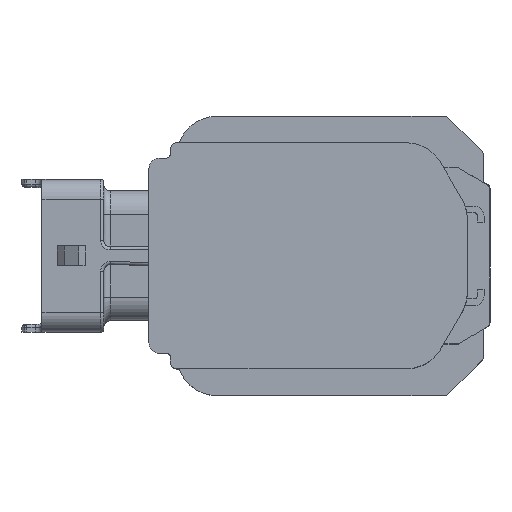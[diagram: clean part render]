
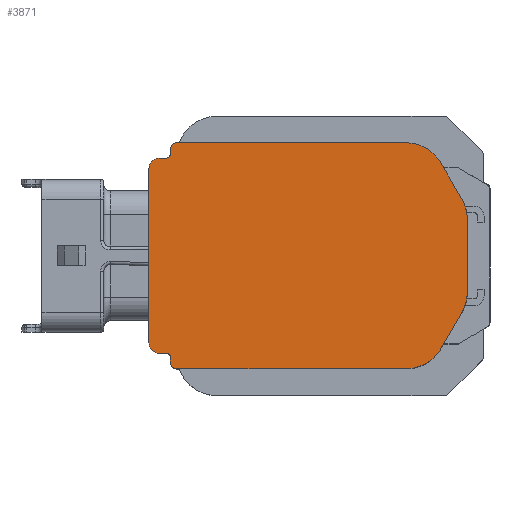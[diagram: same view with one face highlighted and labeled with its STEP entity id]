
A CAD part, top view. The second image highlights one B-rep face of the part: STEP entity #3871.
In plain terms, the highlighted planar face has unit normal (0, 0, 1).
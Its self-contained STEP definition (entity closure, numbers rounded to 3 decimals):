
#439=ELLIPSE('',#14783,1.601,1.6);
#440=ELLIPSE('',#14797,1.601,1.6);
#441=ELLIPSE('',#14800,0.5,0.5);
#442=ELLIPSE('',#14814,0.5,0.5);
#735=PLANE('',#14896);
#2085=LINE('',#27254,#3054);
#2086=LINE('',#27255,#3055);
#2087=LINE('',#27256,#3056);
#2088=LINE('',#27257,#3057);
#2089=LINE('',#27258,#3058);
#2090=LINE('',#27262,#3059);
#2091=LINE('',#27266,#3060);
#2092=LINE('',#27270,#3061);
#2093=LINE('',#27274,#3062);
#2094=LINE('',#27275,#3063);
#3054=VECTOR('',#18447,1.);
#3055=VECTOR('',#18448,1.);
#3056=VECTOR('',#18449,1.);
#3057=VECTOR('',#18450,1.);
#3058=VECTOR('',#18451,1.);
#3059=VECTOR('',#18454,1.);
#3060=VECTOR('',#18457,1.);
#3061=VECTOR('',#18460,1.);
#3062=VECTOR('',#18463,1.);
#3063=VECTOR('',#18464,1.);
#3871=ADVANCED_FACE('',(#4692),#735,.T.);
#4692=FACE_OUTER_BOUND('',#5568,.T.);
#5568=EDGE_LOOP('',(#9501,#9502,#9503,#9504,#9505,#9506,#9507,#9508,#9509,
#9510,#9511,#9512,#9513,#9514,#9515,#9516,#9517,#9518,#9519,#9520));
#9501=ORIENTED_EDGE('',*,*,#12957,.F.);
#9502=ORIENTED_EDGE('',*,*,#12801,.T.);
#9503=ORIENTED_EDGE('',*,*,#12958,.T.);
#9504=ORIENTED_EDGE('',*,*,#12812,.T.);
#9505=ORIENTED_EDGE('',*,*,#12959,.T.);
#9506=ORIENTED_EDGE('',*,*,#12828,.T.);
#9507=ORIENTED_EDGE('',*,*,#12960,.T.);
#9508=ORIENTED_EDGE('',*,*,#12833,.T.);
#9509=ORIENTED_EDGE('',*,*,#12961,.T.);
#9510=ORIENTED_EDGE('',*,*,#12962,.T.);
#9511=ORIENTED_EDGE('',*,*,#12963,.T.);
#9512=ORIENTED_EDGE('',*,*,#12964,.T.);
#9513=ORIENTED_EDGE('',*,*,#12965,.T.);
#9514=ORIENTED_EDGE('',*,*,#12966,.T.);
#9515=ORIENTED_EDGE('',*,*,#12967,.T.);
#9516=ORIENTED_EDGE('',*,*,#12968,.T.);
#9517=ORIENTED_EDGE('',*,*,#12969,.T.);
#9518=ORIENTED_EDGE('',*,*,#12836,.T.);
#9519=ORIENTED_EDGE('',*,*,#12970,.T.);
#9520=ORIENTED_EDGE('',*,*,#12817,.T.);
#10936=VERTEX_POINT('',#26942);
#10937=VERTEX_POINT('',#26944);
#10944=VERTEX_POINT('',#26966);
#10945=VERTEX_POINT('',#26967);
#10948=VERTEX_POINT('',#26975);
#10949=VERTEX_POINT('',#26977);
#10956=VERTEX_POINT('',#26999);
#10957=VERTEX_POINT('',#27000);
#10958=VERTEX_POINT('',#27005);
#10959=VERTEX_POINT('',#27007);
#10960=VERTEX_POINT('',#27011);
#10961=VERTEX_POINT('',#27013);
#11035=VERTEX_POINT('',#27259);
#11036=VERTEX_POINT('',#27261);
#11037=VERTEX_POINT('',#27263);
#11038=VERTEX_POINT('',#27265);
#11039=VERTEX_POINT('',#27267);
#11040=VERTEX_POINT('',#27269);
#11041=VERTEX_POINT('',#27271);
#11042=VERTEX_POINT('',#27273);
#12801=EDGE_CURVE('',#10937,#10936,#439,.T.);
#12812=EDGE_CURVE('',#10944,#10945,#440,.T.);
#12817=EDGE_CURVE('',#10949,#10948,#441,.T.);
#12828=EDGE_CURVE('',#10956,#10957,#442,.T.);
#12833=EDGE_CURVE('',#10958,#10959,#13556,.T.);
#12836=EDGE_CURVE('',#10960,#10961,#13557,.T.);
#12957=EDGE_CURVE('',#10937,#10948,#2085,.T.);
#12958=EDGE_CURVE('',#10936,#10944,#2086,.T.);
#12959=EDGE_CURVE('',#10945,#10956,#2087,.T.);
#12960=EDGE_CURVE('',#10957,#10958,#2088,.T.);
#12961=EDGE_CURVE('',#10959,#11035,#2089,.T.);
#12962=EDGE_CURVE('',#11035,#11036,#13585,.T.);
#12963=EDGE_CURVE('',#11036,#11037,#2090,.T.);
#12964=EDGE_CURVE('',#11037,#11038,#13586,.T.);
#12965=EDGE_CURVE('',#11038,#11039,#2091,.T.);
#12966=EDGE_CURVE('',#11039,#11040,#13587,.T.);
#12967=EDGE_CURVE('',#11040,#11041,#2092,.T.);
#12968=EDGE_CURVE('',#11041,#11042,#13588,.T.);
#12969=EDGE_CURVE('',#11042,#10960,#2093,.T.);
#12970=EDGE_CURVE('',#10961,#10949,#2094,.T.);
#13556=CIRCLE('',#14816,1.);
#13557=CIRCLE('',#14818,1.);
#13585=CIRCLE('',#14892,6.);
#13586=CIRCLE('',#14893,6.);
#13587=CIRCLE('',#14894,6.);
#13588=CIRCLE('',#14895,6.);
#14783=AXIS2_PLACEMENT_3D('',#26943,#18125,#18126);
#14797=AXIS2_PLACEMENT_3D('',#26965,#18154,#18155);
#14800=AXIS2_PLACEMENT_3D('',#26976,#18163,#18164);
#14814=AXIS2_PLACEMENT_3D('',#26998,#18192,#18193);
#14816=AXIS2_PLACEMENT_3D('',#27008,#18200,#18201);
#14818=AXIS2_PLACEMENT_3D('',#27014,#18206,#18207);
#14892=AXIS2_PLACEMENT_3D('',#27260,#18452,#18453);
#14893=AXIS2_PLACEMENT_3D('',#27264,#18455,#18456);
#14894=AXIS2_PLACEMENT_3D('',#27268,#18458,#18459);
#14895=AXIS2_PLACEMENT_3D('',#27272,#18461,#18462);
#14896=AXIS2_PLACEMENT_3D('',#27276,#18465,#18466);
#18125=DIRECTION('',(0.,0.,1.));
#18126=DIRECTION('',(0.,-1.,0.));
#18154=DIRECTION('',(0.,0.,1.));
#18155=DIRECTION('',(0.,-1.,0.));
#18163=DIRECTION('',(0.,0.,-1.));
#18164=DIRECTION('',(0.,1.,0.));
#18192=DIRECTION('',(0.,0.,-1.));
#18193=DIRECTION('',(0.,1.,0.));
#18200=DIRECTION('',(0.,0.,1.));
#18201=DIRECTION('',(0.,-1.,0.));
#18206=DIRECTION('',(0.,0.,1.));
#18207=DIRECTION('',(0.,-1.,0.));
#18447=DIRECTION('',(1.,0.,0.));
#18448=DIRECTION('',(0.,-1.,0.));
#18449=DIRECTION('',(1.,0.,0.));
#18450=DIRECTION('',(0.,-1.,0.));
#18451=DIRECTION('',(1.,0.,0.));
#18452=DIRECTION('',(0.,0.,1.));
#18453=DIRECTION('',(1.,0.,0.));
#18454=DIRECTION('',(0.5,0.866,0.));
#18455=DIRECTION('',(0.,0.,1.));
#18456=DIRECTION('',(1.,0.,0.));
#18457=DIRECTION('',(0.,1.,0.));
#18458=DIRECTION('',(0.,0.,1.));
#18459=DIRECTION('',(1.,0.,0.));
#18460=DIRECTION('',(-0.5,0.866,0.));
#18461=DIRECTION('',(0.,0.,1.));
#18462=DIRECTION('',(1.,0.,0.));
#18463=DIRECTION('',(-1.,0.,0.));
#18464=DIRECTION('',(0.,-1.,0.));
#18465=DIRECTION('',(0.,0.,1.));
#18466=DIRECTION('',(0.,-1.,0.));
#26942=CARTESIAN_POINT('',(-27.5,13.102,28.15));
#26943=CARTESIAN_POINT('',(-25.9,13.102,28.15));
#26944=CARTESIAN_POINT('',(-25.9,14.703,28.15));
#26965=CARTESIAN_POINT('',(-25.9,-13.101,28.15));
#26966=CARTESIAN_POINT('',(-27.5,-13.101,28.15));
#26967=CARTESIAN_POINT('',(-25.9,-14.702,28.15));
#26975=CARTESIAN_POINT('',(-24.8,14.703,28.15));
#26976=CARTESIAN_POINT('',(-24.8,15.203,28.15));
#26977=CARTESIAN_POINT('',(-24.3,15.203,28.15));
#26998=CARTESIAN_POINT('',(-24.8,-15.203,28.15));
#26999=CARTESIAN_POINT('',(-24.8,-14.702,28.15));
#27000=CARTESIAN_POINT('',(-24.3,-15.203,28.15));
#27005=CARTESIAN_POINT('',(-24.3,-16.,28.15));
#27007=CARTESIAN_POINT('',(-23.3,-17.,28.15));
#27008=CARTESIAN_POINT('',(-23.3,-16.,28.15));
#27011=CARTESIAN_POINT('',(-23.3,17.,28.15));
#27013=CARTESIAN_POINT('',(-24.3,16.,28.15));
#27014=CARTESIAN_POINT('',(-23.3,16.,28.15));
#27254=CARTESIAN_POINT('',(-27.5,14.703,28.15));
#27255=CARTESIAN_POINT('',(-27.5,14.703,28.15));
#27256=CARTESIAN_POINT('',(-27.5,-14.702,28.15));
#27257=CARTESIAN_POINT('',(-24.3,17.,28.15));
#27258=CARTESIAN_POINT('',(-24.3,-17.,28.15));
#27259=CARTESIAN_POINT('',(11.2,-17.,28.15));
#27260=CARTESIAN_POINT('',(11.2,-11.,28.15));
#27261=CARTESIAN_POINT('',(16.4,-13.993,28.15));
#27262=CARTESIAN_POINT('',(16.4,-13.993,28.15));
#27263=CARTESIAN_POINT('',(19.596,-8.457,28.15));
#27264=CARTESIAN_POINT('',(14.4,-5.457,28.15));
#27265=CARTESIAN_POINT('',(20.4,-5.457,28.15));
#27266=CARTESIAN_POINT('',(20.4,-5.457,28.15));
#27267=CARTESIAN_POINT('',(20.4,5.457,28.15));
#27268=CARTESIAN_POINT('',(14.4,5.457,28.15));
#27269=CARTESIAN_POINT('',(19.596,8.457,28.15));
#27270=CARTESIAN_POINT('',(19.596,8.457,28.15));
#27271=CARTESIAN_POINT('',(16.4,13.993,28.15));
#27272=CARTESIAN_POINT('',(11.2,11.,28.15));
#27273=CARTESIAN_POINT('',(11.2,17.,28.15));
#27274=CARTESIAN_POINT('',(11.2,17.,28.15));
#27275=CARTESIAN_POINT('',(-24.3,17.,28.15));
#27276=CARTESIAN_POINT('',(11.2,11.,28.15));
